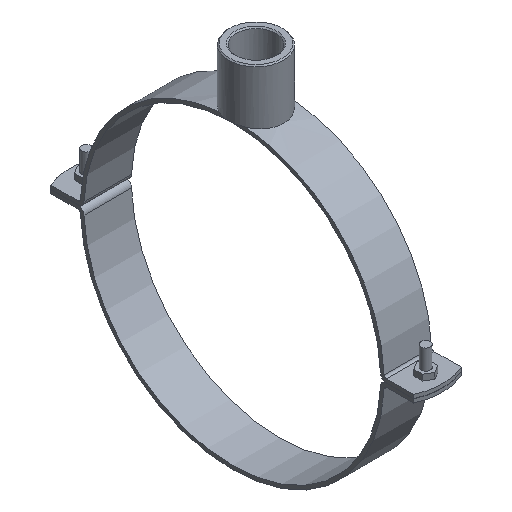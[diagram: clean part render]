
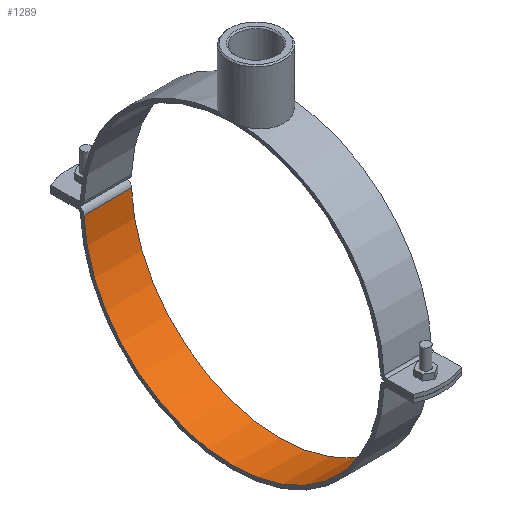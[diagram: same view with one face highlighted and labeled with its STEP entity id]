
A CAD part, isometric view. The second image highlights one B-rep face of the part: STEP entity #1289.
In plain terms, the highlighted cylindrical face has radius 125 mm (diameter 250 mm), a partial arc.
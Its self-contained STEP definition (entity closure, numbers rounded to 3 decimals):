
#114=LINE('',#2230,#226);
#115=LINE('',#2236,#227);
#226=VECTOR('',#1728,40.);
#227=VECTOR('',#1735,40.);
#265=CYLINDRICAL_SURFACE('',#1405,125.);
#396=FACE_OUTER_BOUND('',#482,.T.);
#482=EDGE_LOOP('',(#1097,#1098,#1099,#1100));
#534=CIRCLE('',#1406,125.);
#535=CIRCLE('',#1407,125.);
#644=VERTEX_POINT('',#2228);
#645=VERTEX_POINT('',#2229);
#646=VERTEX_POINT('',#2234);
#647=VERTEX_POINT('',#2235);
#801=EDGE_CURVE('',#644,#645,#114,.T.);
#804=EDGE_CURVE('',#646,#647,#115,.T.);
#805=EDGE_CURVE('',#644,#646,#534,.T.);
#806=EDGE_CURVE('',#647,#645,#535,.T.);
#1097=ORIENTED_EDGE('',*,*,#804,.F.);
#1098=ORIENTED_EDGE('',*,*,#805,.F.);
#1099=ORIENTED_EDGE('',*,*,#801,.T.);
#1100=ORIENTED_EDGE('',*,*,#806,.F.);
#1289=ADVANCED_FACE('',(#396),#265,.F.);
#1405=AXIS2_PLACEMENT_3D('',#2233,#1733,#1734);
#1406=AXIS2_PLACEMENT_3D('',#2237,#1736,#1737);
#1407=AXIS2_PLACEMENT_3D('',#2238,#1738,#1739);
#1728=DIRECTION('',(-1.,0.,0.));
#1733=DIRECTION('center_axis',(1.,0.,0.));
#1734=DIRECTION('ref_axis',(0.,-0.999,-0.039));
#1735=DIRECTION('',(-1.,0.,0.));
#1736=DIRECTION('center_axis',(-1.,0.,0.));
#1737=DIRECTION('ref_axis',(0.,-0.999,-0.039));
#1738=DIRECTION('center_axis',(1.,0.,0.));
#1739=DIRECTION('ref_axis',(0.,-0.999,-0.039));
#2228=CARTESIAN_POINT('',(20.,124.904,-4.904));
#2229=CARTESIAN_POINT('',(-20.,124.904,-4.904));
#2230=CARTESIAN_POINT('',(0.,124.904,-4.904));
#2233=CARTESIAN_POINT('Origin',(0.,0.,0.));
#2234=CARTESIAN_POINT('',(20.,-124.904,-4.904));
#2235=CARTESIAN_POINT('',(-20.,-124.904,-4.904));
#2236=CARTESIAN_POINT('',(0.,-124.904,-4.904));
#2237=CARTESIAN_POINT('Origin',(20.,0.,0.));
#2238=CARTESIAN_POINT('Origin',(-20.,0.,0.));
